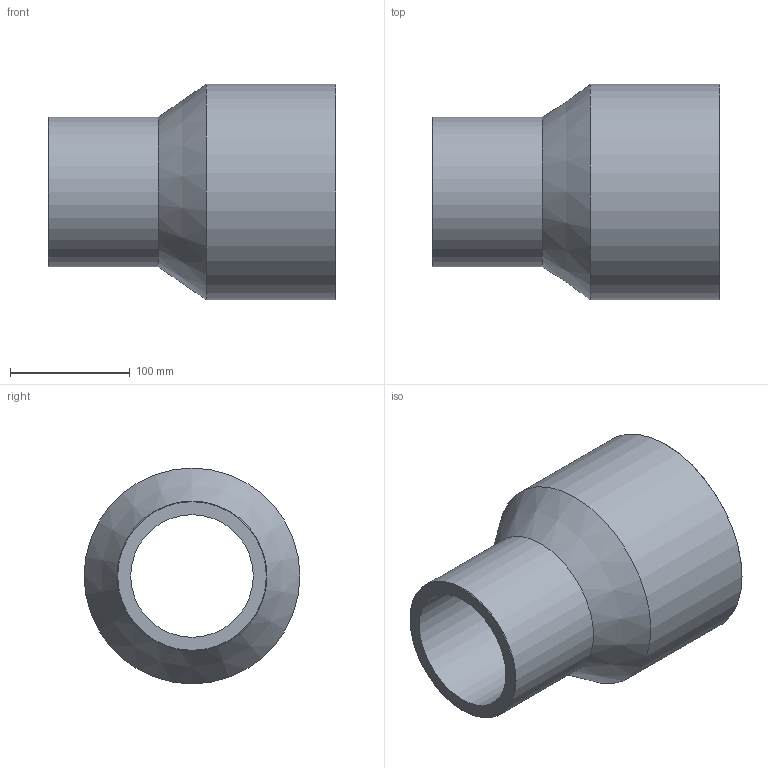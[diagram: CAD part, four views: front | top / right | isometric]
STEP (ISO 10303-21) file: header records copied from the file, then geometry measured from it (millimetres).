
FILE_DESCRIPTION(/* description */ ('Unknown'),/* implementation_level */ '2;1');
FILE_NAME(/* name */ 'RP180125C',/* time_stamp */ '2021-09-17T15:18:23+02:00',/* author */ ('Unknown'),/* organization */ ('Unknown'),/* preprocessor_version */ 'ST-DEVELOPER v16.7',/* originating_system */ 'Solid Edge',/* authorisation */ 'Unknown');
FILE_SCHEMA (('AUTOMOTIVE_DESIGN {1 0 10303 214 3 1 1}'));
Length unit declared in the file: millimetre
Products named in the file (1): RP180125C
Bounding box: 240 x 180 x 180 mm (x, y, z)
Volume: 1577974.5 mm3; surface area: 229307.5 mm2
Topology: 1 solids, 1 shells, 10 faces, 19 edges, 11 vertices
Faces by surface type: cylinder 4, cone 4, plane 2
Full cylindrical faces by diameter (mm): 102.2 x1, 125 x1, 147.2 x1, 180 x1
Entity records: 238 total; most frequent: DIRECTION 42, CARTESIAN_POINT 31, AXIS2_PLACEMENT_3D 21, ORIENTED_EDGE 20, EDGE_LOOP 20, FACE_BOUND 20, EDGE_CURVE 10, VERTEX_POINT 10
